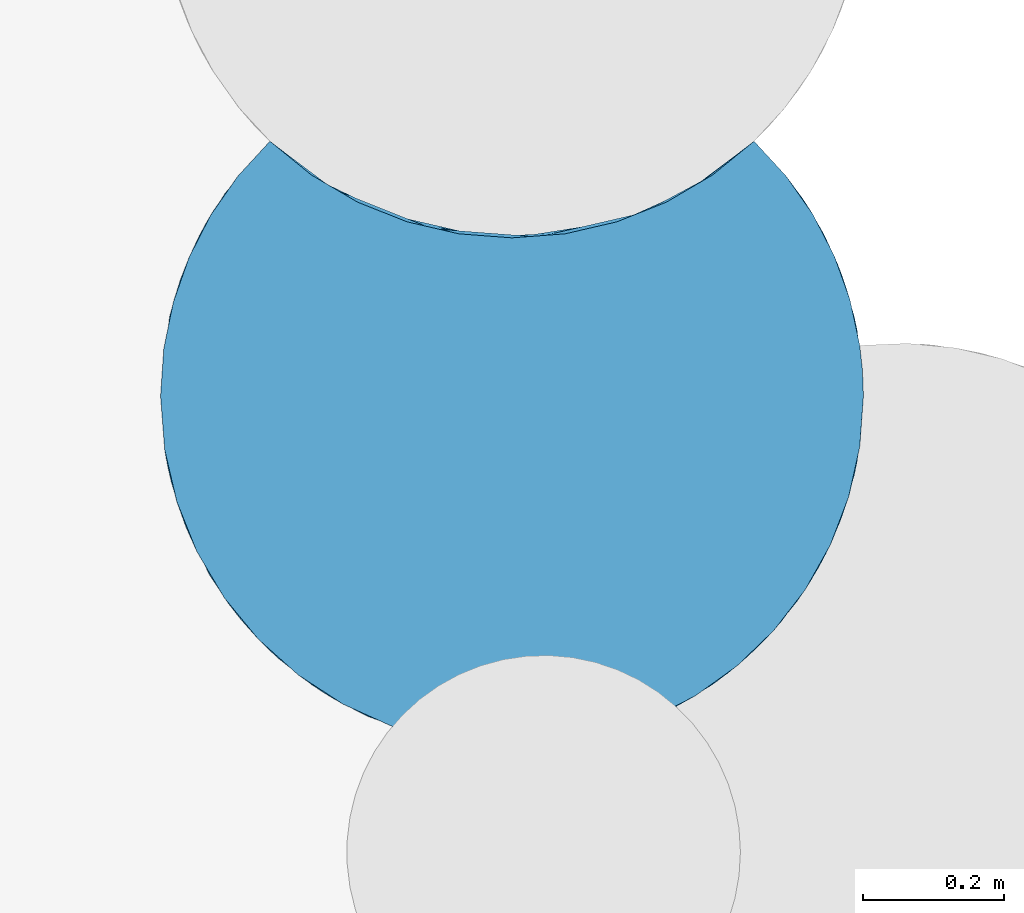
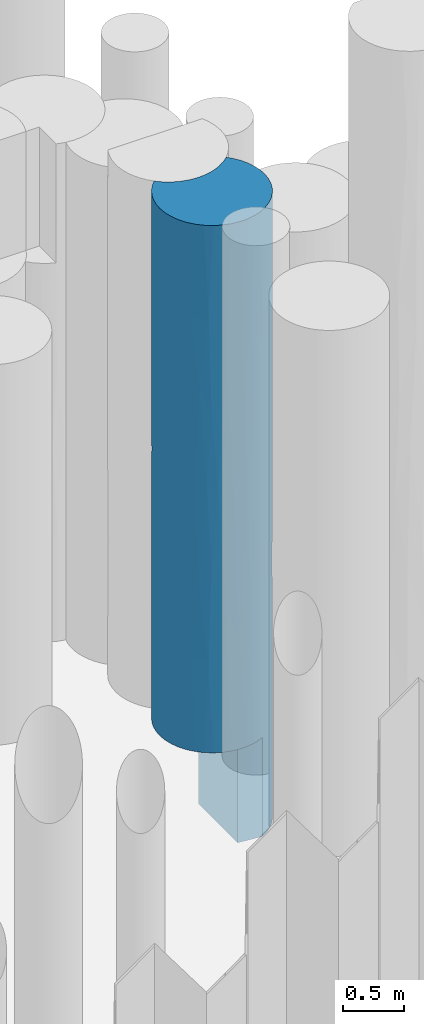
# One storey, part 92 of 104: 1 pile.
"""IFC2X3 building model written with IfcOpenShell, lengths in millimetres."""

from ifc_helpers import new_model, entity, si_unit, converted_unit, derived_unit, direction, frame, origin, place, context, subcontext, project, spatial, faceted_brep, source, transform, mapped, material, element, save


model = new_model("IFC2X3")

# Units and contexts
model_context = context("Model", 3, precision=0.01, world=origin(), true_north=direction((6.12303176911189e-17, 1.0)))
body_context = subcontext(model_context, "Body", "Model", "MODEL_VIEW")
ifc_project = project(units=[si_unit("LENGTHUNIT", "METRE", prefix="MILLI"), si_unit("AREAUNIT", "SQUARE_METRE", prefix="MILLI"), si_unit("VOLUMEUNIT", "CUBIC_METRE"), converted_unit("PLANEANGLEUNIT", "DEGREE", entity("IfcRatioMeasure", 0.0174532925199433), si_unit("PLANEANGLEUNIT", "RADIAN"), dimensions=[0, 0, 0, 0, 0, 0, 0]), si_unit("MASSUNIT", "GRAM", prefix="KILO"), derived_unit("MASSDENSITYUNIT", [(si_unit("MASSUNIT", "GRAM", prefix="KILO"), 1), (si_unit("LENGTHUNIT", "METRE"), -3)]), derived_unit("MOMENTOFINERTIAUNIT", [(si_unit("LENGTHUNIT", "METRE"), 4)]), si_unit("TIMEUNIT", "SECOND"), si_unit("FREQUENCYUNIT", "HERTZ"), si_unit("THERMODYNAMICTEMPERATUREUNIT", "DEGREE_CELSIUS"), derived_unit("THERMALTRANSMITTANCEUNIT", [(si_unit("MASSUNIT", "GRAM", prefix="KILO"), 1), (si_unit("THERMODYNAMICTEMPERATUREUNIT", "KELVIN"), -1), (si_unit("TIMEUNIT", "SECOND"), -3)]), derived_unit("VOLUMETRICFLOWRATEUNIT", [(si_unit("LENGTHUNIT", "METRE"), 3), (si_unit("TIMEUNIT", "SECOND"), -1)]), si_unit("ELECTRICCURRENTUNIT", "AMPERE"), si_unit("ELECTRICVOLTAGEUNIT", "VOLT"), si_unit("POWERUNIT", "WATT"), si_unit("FORCEUNIT", "NEWTON", prefix="KILO"), si_unit("ILLUMINANCEUNIT", "LUX"), si_unit("LUMINOUSFLUXUNIT", "LUMEN"), si_unit("LUMINOUSINTENSITYUNIT", "CANDELA"), derived_unit("USERDEFINED", [(si_unit("MASSUNIT", "GRAM", prefix="KILO"), -1), (si_unit("LENGTHUNIT", "METRE"), -2), (si_unit("TIMEUNIT", "SECOND"), 3), (si_unit("LUMINOUSFLUXUNIT", "LUMEN"), 1)]), derived_unit("LINEARVELOCITYUNIT", [(si_unit("LENGTHUNIT", "METRE"), 1), (si_unit("TIMEUNIT", "SECOND"), -1)]), si_unit("PRESSUREUNIT", "PASCAL"), derived_unit("USERDEFINED", [(si_unit("LENGTHUNIT", "METRE"), -2), (si_unit("MASSUNIT", "GRAM", prefix="KILO"), 1), (si_unit("TIMEUNIT", "SECOND"), -2)]), derived_unit("LINEARFORCEUNIT", [(si_unit("MASSUNIT", "GRAM", prefix="KILO"), 1), (si_unit("LENGTHUNIT", "METRE"), 1), (si_unit("TIMEUNIT", "SECOND"), -2), (si_unit("LENGTHUNIT", "METRE"), -1)]), derived_unit("PLANARFORCEUNIT", [(si_unit("MASSUNIT", "GRAM", prefix="KILO"), 1), (si_unit("LENGTHUNIT", "METRE"), 1), (si_unit("TIMEUNIT", "SECOND"), -2), (si_unit("LENGTHUNIT", "METRE"), -2)])], contexts=[model_context])

# Site, building, storey
site_placement = place(None, origin())
site = spatial("IfcSite", under=ifc_project, at=site_placement, Name="Theater aan de Parade", CompositionType="ELEMENT")
building_placement = place(site_placement, origin())
building = spatial("IfcBuilding", under=site, at=building_placement, Name="Theater aan de Parade", CompositionType="ELEMENT")
storey_placement = place(building_placement, frame((0.0, 0.0, -5520.0)))
storey = spatial("IfcBuildingStorey", under=building, at=storey_placement, Name="-2 kelder", CompositionType="ELEMENT", Elevation=-5520.0)

# Pile
ifc_material = material(Name="00_PBT_MAT_grout")
shared_shape = source(origin(), body_context, "Body", "Brep", [
    faceted_brep([(787.130615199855, 815.699785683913, 0.0), (845.969705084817, 863.650230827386, 0.0), (891.111433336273, 814.642113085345, 0.0), (929.324519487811, 760.085919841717, 0.0), (959.945946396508, 700.936765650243, 0.0), (982.434653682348, 638.239578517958, 0.0), (996.390640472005, 573.104509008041, 0.0), (1000.28902772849, 537.268622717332, 0.0), (1001.59527223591, 501.150230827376, 0.0), (996.773589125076, 431.879497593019, 0.0), (982.407371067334, 363.965225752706, 0.0), (958.774045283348, 298.696360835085, 0.0), (926.331052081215, 237.333026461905, 0.0), (885.703177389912, 181.054749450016, 0.0), (837.67149701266, 130.943840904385, 0.0), (783.15863971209, 87.9649574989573, 0.0), (723.211411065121, 52.9468316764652, 0.0), (501.595272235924, 76.1502308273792, 0.0), (501.595272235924, 726.150230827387, 0.0), (577.2794271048, 731.911514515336, 0.0), (651.219430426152, 749.062596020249, 0.0), (721.71132485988, 777.208226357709, 0.0), (924.59915900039, 767.735511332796, 998.557656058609), (972.235500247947, 669.963073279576, 1034.1885681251), (891.111433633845, 814.642112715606, 6320.0), (914.09169247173, 783.721820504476, 5261.34043318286), (845.969705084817, 863.650230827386, 6320.0), (1001.59527223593, 501.150230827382, 4758.46227706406), (972.23549947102, 669.963075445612, 4767.63731610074), (996.389138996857, 573.11570460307, 6320.0), (988.714233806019, 613.91155965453, 2059.92562036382), (1001.59527223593, 501.15023082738, 1561.53772293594), (982.434653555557, 638.23957896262, 6320.0), (959.945946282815, 700.936765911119, 6320.0), (1000.2890277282, 537.268622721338, 6320.0), (1001.59527223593, 501.15023082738, 6320.0), (992.956688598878, 593.691889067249, 3531.92212575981), (1001.59527223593, 501.150230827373, 4721.53770591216), (1001.59527223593, 501.150230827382, 3940.76886146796), (1001.59527223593, 501.15023082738, 3123.07544587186), (945.621241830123, 731.02180002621, 1921.99462601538), (845.969705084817, 863.650230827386, 1561.5379935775), (920.600949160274, 773.976627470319, 4176.93235706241), (964.554600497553, 690.011715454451, 3321.36634733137), (845.969705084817, 863.650230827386, 2342.30699036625), (929.324519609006, 760.085919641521, 6320.0), (914.610294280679, 782.963274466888, 3203.45449420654), (845.969705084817, 863.650230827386, 3940.76930515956), (1001.59527223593, 501.150230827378, 2342.30655886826), (845.969705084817, 863.650230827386, 4758.46262316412), (845.969705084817, 863.650230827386, 3123.07537041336), (845.969705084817, 863.65023082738, 4721.51876479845), (115.298018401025, 183.700342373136, 1925.51016944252), (92.1866308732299, 214.123116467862, 1000.0), (140.664889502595, 155.131071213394, 1000.0), (730.565505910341, 56.6587999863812, 4985.71222771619), (592.90480546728, 9.55835829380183, 5301.22098026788), (624.560728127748, 16.5065507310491, 4355.06352616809), (331.128239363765, 31.1066257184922, 1000.0), (404.686270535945, 10.6314795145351, 1000.0), (367.515841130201, 19.4628777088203, 2399.52945457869), (981.307385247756, 360.166938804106, 5284.27607676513), (996.272886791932, 428.389955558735, 6320.0), (980.421506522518, 357.186911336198, 6320.0), (53.2559584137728, 279.809182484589, 1000.0), (228.756165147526, 82.1528303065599, 1925.50952249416), (248.896633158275, 69.7068419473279, 2846.83710749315), (168.139009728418, 128.582222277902, 2623.12210875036), (197.561422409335, 104.207642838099, 6320.0), (140.666222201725, 155.129681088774, 6320.0), (228.757429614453, 82.1520069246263, 5370.93345697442), (794.419440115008, 95.8676051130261, 2605.25058547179), (862.557972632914, 155.164784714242, 1391.765374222), (906.99487493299, 208.488032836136, 2669.0395347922), (478.548193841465, 1.68168108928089, 2082.67449518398), (115.299256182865, 183.698836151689, 5370.93250835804), (168.140360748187, 128.581013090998, 4642.35577609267), (197.560072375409, 104.208676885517, 1000.0), (937.701799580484, 256.587157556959, 5232.9611987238), (954.379042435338, 289.049176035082, 6320.0), (37.6640238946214, 314.688983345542, 2328.27052100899), (71.4655785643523, 246.221914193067, 3509.1130877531), (92.1877637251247, 214.121500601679, 6320.0), (367.516299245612, 19.4627501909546, 4920.4682463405), (248.748756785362, 69.793487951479, 4459.99081766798), (585.55919374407, 8.25058598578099, 2527.94885742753), (556.798180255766, 4.20693532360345, 1000.0), (24.7809076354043, 350.657501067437, 1000.0), (9.48991744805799, 412.6498365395, 1990.5127979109), (7.42588746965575, 425.014699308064, 6320.0), (1.5952722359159, 501.150230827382, 5539.24032251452), (12.3346550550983, 398.07720586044, 5387.40033405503), (918.132362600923, 224.569587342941, 4276.84456444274), (968.644507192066, 322.64249394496, 4314.20087902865), (792.866634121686, 94.7501893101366, 3711.95419239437), (873.822373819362, 167.313467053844, 3537.33544085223), (11.1118380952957, 404.06263721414, 4437.71362789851), (97.3923342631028, 206.837497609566, 4408.98878881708), (947.726852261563, 275.392366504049, 3402.44042184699), (518.700695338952, 1.44291198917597, 4477.13761736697), (425.056240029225, 7.04318114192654, 3578.4302929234), (560.117273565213, 4.58686592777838, 3525.61669251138), (53.2567658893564, 279.807546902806, 6320.0), (24.7813465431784, 350.656110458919, 6320.0), (37.6646359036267, 314.687460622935, 4848.76039819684), (491.395947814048, 1.25426786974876, 5384.20567009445), (404.686422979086, 10.6314493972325, 6320.0), (988.424650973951, 387.145160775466, 3411.3544024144), (958.027301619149, 297.018404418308, 2465.61645474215), (990.445214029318, 396.146733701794, 2309.90588735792), (146.755250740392, 148.888170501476, 3632.74117841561), (261.546418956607, 62.5427205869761, 6320.0), (331.128987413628, 31.1063544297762, 6320.0), (17.1074970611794, 377.571932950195, 3489.34082298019), (1.5952722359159, 501.150230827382, 2561.55050561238), (696.796372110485, 40.8280277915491, 3653.30093474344), (925.115246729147, 235.385614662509, 1712.67215943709), (971.724749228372, 330.920166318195, 1563.86093685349), (943.618670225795, 267.451031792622, 860.397084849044), (614.03689701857, 13.9573726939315, 1000.0), (848.832257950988, 141.391317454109, 5428.39472303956), (848.832257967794, 141.391317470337, 4475.79076152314), (809.150942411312, 106.930102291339, 821.830010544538), (628.524814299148, 17.5296239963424, 6320.0), (556.798180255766, 4.20693532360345, 6320.0), (723.211411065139, 52.9468316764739, 1000.0), (669.72185017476, 30.2644126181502, 1000.0), (696.796372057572, 40.82802776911, 2112.09815937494), (697.535412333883, 41.1421205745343, 6320.0), (918.701132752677, 225.428086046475, 6320.0), (874.147686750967, 167.676546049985, 6320.0), (1.5952722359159, 501.150230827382, 1000.0), (7.42573689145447, 425.015676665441, 1000.0), (1.5952722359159, 501.150230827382, 6320.0), (993.102884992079, 409.38822015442, 4556.36193693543), (787.274378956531, 90.7998342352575, 1658.76123391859), (480.503379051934, 1.59529686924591, 6320.0), (295.735787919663, 45.4947988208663, 3659.99920107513), (216.443791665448, 90.4330128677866, 3698.02092341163), (762.375870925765, 74.5432930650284, 6320.0), (261.545263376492, 62.5433530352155, 1000.0), (821.66705021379, 117.022573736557, 6320.0), (480.503962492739, 1.59527223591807, 1000.0), (1.5952722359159, 501.150230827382, 4123.0698605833), (787.130615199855, 815.699785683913, 6320.0), (721.71132485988, 777.208226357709, 6320.0), (651.219430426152, 749.062596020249, 6320.0), (577.2794271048, 731.911514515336, 6320.0), (501.595272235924, 726.150230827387, 6320.0), (425.911117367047, 731.911514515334, 6320.0), (351.971114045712, 749.062596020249, 6320.0), (281.479219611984, 777.208226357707, 6320.0), (216.05992927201, 815.699785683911, 6320.0), (157.220839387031, 863.650230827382, 6320.0), (111.508705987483, 813.932057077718, 6320.0), (72.9202984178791, 758.517219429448, 6320.0), (42.150917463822, 698.408652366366, 6320.0), (19.7604714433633, 634.69881653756, 6320.0), (6.15911163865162, 568.552091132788, 6320.0), (755.152432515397, 795.210830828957, 1074.20186333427), (248.038112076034, 795.210830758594, 1945.97837290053), (316.1903101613, 761.795840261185, 2673.54103229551), (331.380733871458, 756.015132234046, 1831.51892007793), (463.643712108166, 727.592632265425, 2307.09726449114), (501.595272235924, 726.150230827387, 1000.0), (425.911117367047, 731.911514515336, 1000.0), (655.826891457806, 750.532098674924, 1004.19870033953), (592.285438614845, 734.443719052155, 2983.54863235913), (579.430869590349, 732.245766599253, 1761.36599983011), (388.615190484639, 739.081959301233, 5374.02162711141), (248.038112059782, 795.210830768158, 5374.02162696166), (281.479219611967, 777.208226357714, 1000.0), (216.059929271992, 815.69978568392, 1000.0), (412.040699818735, 734.23562588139, 4464.37496681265), (539.546832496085, 727.592632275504, 4921.29179364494), (687.000234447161, 761.795840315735, 5321.72798449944), (761.705404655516, 799.134166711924, 2699.46284929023), (774.975088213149, 807.505421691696, 3754.53967504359), (229.233396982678, 806.842457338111, 2839.66051631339), (235.400923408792, 802.900223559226, 3875.21658180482), (344.957363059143, 751.319139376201, 3660.0), (316.19031013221, 761.7958402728, 4646.45896744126), (157.220839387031, 863.650230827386, 4758.46229264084), (157.220839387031, 863.650230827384, 5539.23151666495), (463.643712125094, 727.592632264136, 3660.0), (157.220839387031, 863.650230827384, 1780.76885367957), (351.971114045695, 749.062596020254, 1000.0), (687.000234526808, 761.795840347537, 1962.11063413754), (687.00023447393, 761.795840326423, 4264.18859056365), (764.090940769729, 800.596445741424, 4792.95828763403), (584.61102550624, 733.090006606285, 3996.0290462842), (157.220839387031, 863.650230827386, 3196.9245852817), (157.220839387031, 863.650230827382, 4123.07757109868), (765.898573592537, 801.716767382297, 1883.363111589), (157.220839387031, 863.650230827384, 1000.0), (679.395927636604, 758.831360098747, 2809.20343634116), (157.220839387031, 863.650230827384, 2561.54060442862), (93.2822344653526, 789.733777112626, 3688.12383640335), (56.5160164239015, 728.975725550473, 2932.01258348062), (29.8788871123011, 666.932171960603, 5418.48660074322), (56.5197219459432, 728.982964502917, 4694.93013683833), (15.6221151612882, 618.751636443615, 4393.85504789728), (14.1688826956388, 612.575159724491, 3065.24519671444), (29.8739557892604, 666.918139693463, 2040.86482096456), (42.1460278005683, 698.397263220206, 1000.0), (19.7558369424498, 634.682094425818, 1000.0), (77.0676685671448, 765.302296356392, 2002.708834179), (72.9183066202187, 758.51390182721, 1000.0), (67.0666152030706, 748.505938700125, 5498.16588519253), (6.15621561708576, 568.530800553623, 1000.0), (111.511270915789, 813.935255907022, 1000.0), (40.9687496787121, 695.632123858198, 3813.48569404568), (501.595272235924, 76.1502308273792, 1000.0)], [[[0, 1, 2, 3, 4, 5, 6, 7, 8, 9, 10, 11, 12, 13, 14, 15, 16, 17, 18, 19, 20, 21]], [[22, 4, 3]], [[23, 4, 22]], [[5, 23, 6]], [[24, 25, 26]], [[27, 28, 29]], [[23, 30, 31]], [[6, 31, 7]], [[32, 28, 33]], [[31, 8, 7]], [[34, 35, 27]], [[36, 27, 37, 38, 39]], [[4, 23, 5]], [[40, 23, 22]], [[6, 23, 31]], [[1, 41, 2]], [[32, 29, 28]], [[42, 28, 43]], [[42, 25, 28]], [[40, 41, 44]], [[33, 28, 25]], [[25, 24, 45]], [[46, 47, 42]], [[30, 39, 48, 31]], [[41, 22, 2]], [[43, 36, 30]], [[30, 23, 40]], [[27, 29, 34]], [[43, 30, 40]], [[2, 22, 3]], [[40, 22, 41]], [[42, 43, 46]], [[25, 42, 49]], [[25, 49, 26]], [[25, 45, 33]], [[43, 40, 46]], [[46, 44, 50, 47]], [[40, 44, 46]], [[30, 36, 39]], [[36, 28, 27]], [[28, 36, 43]], [[42, 47, 51, 49]], [[52, 53, 54]], [[55, 56, 57]], [[58, 59, 60]], [[61, 62, 63]], [[9, 8, 31]], [[53, 52, 64]], [[65, 52, 54]], [[65, 66, 67]], [[58, 60, 65]], [[68, 69, 70]], [[71, 72, 73]], [[74, 60, 59]], [[70, 75, 76]], [[77, 65, 54]], [[78, 61, 79]], [[52, 65, 67]], [[80, 52, 81]], [[75, 69, 82]], [[83, 70, 84]], [[85, 74, 86]], [[87, 80, 88]], [[89, 90, 91]], [[78, 92, 93]], [[94, 71, 95]], [[91, 90, 96]], [[75, 97, 76]], [[93, 92, 98]], [[99, 100, 101]], [[102, 103, 104]], [[105, 106, 83]], [[75, 102, 104]], [[75, 70, 69]], [[107, 108, 109]], [[76, 97, 110]], [[68, 70, 111]], [[112, 111, 70]], [[113, 114, 88]], [[87, 64, 80]], [[115, 57, 101]], [[116, 117, 108]], [[106, 112, 83]], [[116, 72, 118]], [[85, 86, 119]], [[120, 121, 92]], [[122, 14, 13]], [[57, 56, 99]], [[11, 118, 12]], [[123, 124, 56]], [[125, 16, 15]], [[126, 125, 127]], [[12, 118, 13]], [[128, 56, 55]], [[31, 117, 9]], [[113, 80, 81]], [[105, 99, 56]], [[63, 79, 61]], [[72, 122, 13]], [[78, 120, 92]], [[120, 129, 130]], [[117, 10, 9]], [[88, 131, 132]], [[87, 88, 132]], [[89, 133, 90]], [[134, 107, 39]], [[56, 124, 105]], [[107, 93, 98]], [[135, 127, 125]], [[126, 127, 119]], [[105, 124, 136]], [[56, 128, 123]], [[103, 89, 91]], [[137, 84, 138]], [[55, 139, 128]], [[65, 77, 140]], [[139, 55, 120]], [[72, 71, 135]], [[62, 37, 27, 35]], [[94, 55, 115]], [[120, 130, 141]], [[93, 61, 78]], [[101, 100, 74]], [[74, 59, 142]], [[78, 129, 120]], [[55, 121, 120]], [[129, 78, 79]], [[104, 91, 96]], [[100, 83, 137]], [[10, 117, 118]], [[120, 141, 139]], [[72, 135, 122]], [[84, 70, 76]], [[112, 70, 83]], [[102, 75, 82]], [[97, 104, 81]], [[81, 52, 67]], [[64, 52, 80]], [[58, 65, 140]], [[66, 60, 137]], [[73, 98, 95]], [[115, 85, 127]], [[115, 127, 71]], [[119, 127, 85]], [[104, 97, 75]], [[110, 81, 67]], [[81, 110, 97]], [[67, 66, 138]], [[104, 113, 81]], [[114, 113, 143]], [[60, 66, 65]], [[66, 137, 138]], [[101, 57, 99]], [[55, 57, 115]], [[83, 100, 99]], [[115, 101, 85]], [[137, 60, 100]], [[100, 60, 74]], [[138, 76, 110]], [[83, 84, 137]], [[96, 90, 143]], [[103, 91, 104]], [[143, 113, 96]], [[113, 104, 96]], [[93, 134, 61]], [[62, 61, 37]], [[76, 138, 84]], [[138, 110, 67]], [[95, 92, 121]], [[92, 95, 98]], [[73, 108, 98]], [[107, 109, 39]], [[94, 95, 121]], [[134, 39, 38, 37]], [[107, 98, 108]], [[48, 39, 109, 31]], [[71, 73, 95]], [[55, 94, 121]], [[71, 94, 115]], [[116, 73, 72]], [[108, 117, 109]], [[73, 116, 108]], [[72, 13, 118]], [[10, 118, 11]], [[117, 116, 118]], [[31, 109, 117]], [[106, 105, 136]], [[83, 99, 105]], [[107, 134, 93]], [[37, 61, 134]], [[86, 74, 142]], [[74, 85, 101]], [[113, 88, 80]], [[131, 88, 114]], [[127, 135, 71]], [[122, 125, 15]], [[125, 122, 135]], [[14, 122, 15]], [[144, 145, 146, 147, 148, 149, 150, 151, 152, 153, 154, 155, 156, 157, 158, 133, 89, 103, 102, 82, 69, 68, 111, 112, 106, 136, 124, 123, 128, 139, 141, 130, 129, 79, 63, 62, 35, 34, 29, 32, 33, 45, 24, 26]], [[0, 159, 1]], [[1, 159, 41]], [[160, 161, 162]], [[163, 164, 165]], [[20, 166, 21]], [[161, 163, 162]], [[167, 168, 163]], [[169, 170, 151, 150]], [[171, 172, 160]], [[173, 169, 174]], [[174, 147, 175]], [[176, 177, 50]], [[178, 179, 180]], [[170, 169, 181]], [[170, 182, 183, 153]], [[184, 180, 173]], [[163, 184, 167]], [[149, 169, 150]], [[147, 146, 175]], [[19, 18, 164]], [[185, 178, 160]], [[171, 162, 186]], [[20, 19, 166]], [[187, 159, 166]], [[166, 164, 168]], [[175, 188, 174]], [[166, 159, 21]], [[180, 184, 163]], [[177, 189, 51]], [[148, 169, 149]], [[175, 145, 144]], [[152, 151, 170]], [[21, 159, 0]], [[163, 165, 162]], [[148, 147, 174]], [[176, 50, 44, 41]], [[167, 184, 190]], [[146, 145, 175]], [[179, 191, 192, 182]], [[144, 26, 49, 51]], [[175, 144, 189]], [[176, 193, 187]], [[172, 194, 185]], [[188, 175, 189]], [[181, 169, 173]], [[174, 169, 148]], [[152, 170, 153]], [[182, 170, 179]], [[161, 160, 178]], [[160, 172, 185]], [[176, 187, 195]], [[188, 190, 174]], [[181, 173, 180]], [[184, 173, 174]], [[181, 180, 179]], [[163, 161, 180]], [[170, 181, 179]], [[178, 191, 179]], [[180, 161, 178]], [[178, 185, 196, 191]], [[188, 189, 177]], [[51, 189, 144]], [[190, 188, 195]], [[177, 51, 47, 50]], [[195, 188, 177]], [[193, 159, 187]], [[187, 166, 168]], [[164, 166, 19]], [[195, 187, 168]], [[168, 164, 163]], [[160, 162, 171]], [[165, 186, 162]], [[177, 176, 195]], [[167, 195, 168]], [[174, 190, 184]], [[167, 190, 195]], [[193, 41, 159]], [[193, 176, 41]], [[197, 196, 198]], [[199, 200, 201]], [[202, 203, 114]], [[203, 204, 205]], [[203, 206, 204]], [[207, 204, 206]], [[202, 143, 201]], [[208, 156, 155]], [[200, 183, 182, 192]], [[199, 208, 200]], [[114, 203, 209]], [[158, 199, 90]], [[208, 199, 156]], [[210, 196, 185, 194]], [[209, 131, 114]], [[133, 158, 90]], [[154, 183, 208]], [[158, 157, 199]], [[201, 143, 90]], [[206, 210, 207]], [[201, 90, 199]], [[198, 211, 197]], [[203, 198, 206]], [[154, 153, 183]], [[209, 203, 205]], [[157, 156, 199]], [[200, 211, 201]], [[202, 198, 203]], [[143, 202, 114]], [[211, 202, 201]], [[198, 196, 206]], [[210, 206, 196]], [[154, 208, 155]], [[183, 200, 208]], [[197, 200, 192]], [[202, 211, 198]], [[200, 197, 211]], [[197, 192, 191, 196]], [[204, 207, 210, 194, 172, 171, 186, 165, 164, 212, 125, 126, 119, 86, 142, 59, 58, 140, 77, 54, 53, 64, 87, 132, 131, 209, 205]], [[212, 164, 18, 17]], [[125, 212, 17, 16]]]),
])
pile_placement = place(storey_placement, frame((86298.4047277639, 18127.8257883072, -3840.0)))
element("IfcPile", 1, at=pile_placement, inside=storey, material=ifc_material, Name="17_PBT_SFO_grondkering_rond:Ø1000 (grondkering)", ObjectType="17_PBT_SFO_grondkering_rond:Ø1000 (grondkering)", PredefinedType="NOTDEFINED", context=body_context, shape_type="MappedRepresentation", body=[
    mapped(shared_shape, transform((0.0, 0.0, 0.0), scale=1.0)),
])

save(model, "model.ifc")
